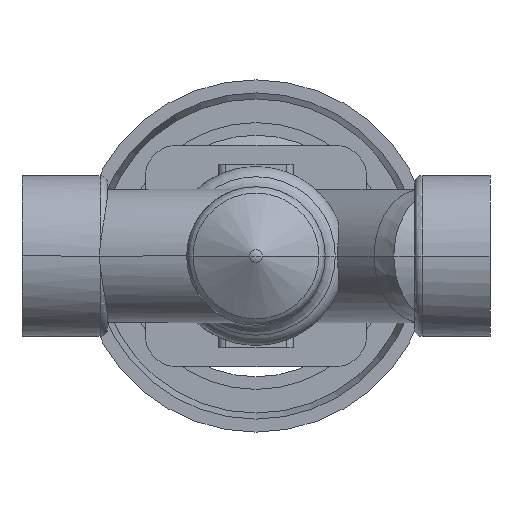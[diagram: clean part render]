
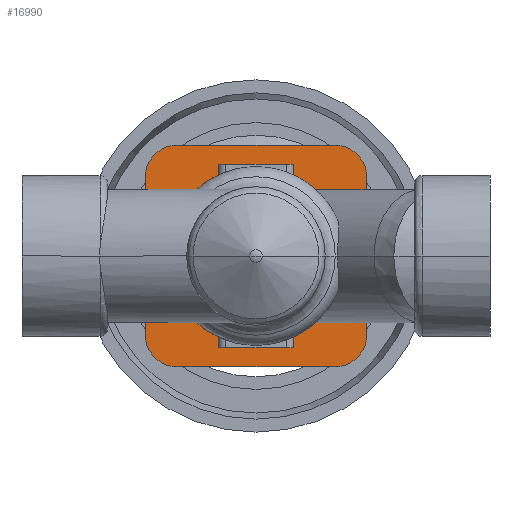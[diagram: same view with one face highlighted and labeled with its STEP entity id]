
A CAD part, front view. The second image highlights one B-rep face of the part: STEP entity #16990.
In plain terms, the highlighted planar face has unit normal (0, -1, 0).
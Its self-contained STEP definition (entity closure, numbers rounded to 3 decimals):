
#3250=CARTESIAN_POINT('',(78.,56.5,32.175));
#3260=VERTEX_POINT('',#3250);
#3880=CARTESIAN_POINT('',(108.,56.5,32.175));
#3890=VERTEX_POINT('',#3880);
#3920=CARTESIAN_POINT('',(93.,56.5,0.));
#3930=DIRECTION('',(0.,1.,0.));
#3940=DIRECTION('',(1.,0.,0.));
#3950=AXIS2_PLACEMENT_3D('',#3920,#3930,#3940);
#3960=CIRCLE('',#3950,35.5);
#3970=CARTESIAN_POINT('',(118.775,56.5,24.411));
#3980=VERTEX_POINT('',#3970);
#3990=EDGE_CURVE('',#3890,#3980,#3960,.T.);
#4940=CARTESIAN_POINT('',(57.5,56.5,0.));
#4950=VERTEX_POINT('',#4940);
#4980=CARTESIAN_POINT('',(93.,56.5,0.));
#4990=DIRECTION('',(0.,1.,0.));
#5000=DIRECTION('',(1.,0.,0.));
#5010=AXIS2_PLACEMENT_3D('',#4980,#4990,#5000);
#5020=CIRCLE('',#5010,35.5);
#5030=EDGE_CURVE('',#4950,#3260,#5020,.T.);
#8240=CARTESIAN_POINT('',(78.,56.5,-36.5));
#8250=VERTEX_POINT('',#8240);
#8280=CARTESIAN_POINT('',(78.,56.5,18.25));
#8290=DIRECTION('',(0.,0.,1.));
#8300=VECTOR('',#8290,1.);
#8310=LINE('',#8280,#8300);
#8320=CARTESIAN_POINT('',(78.,56.5,-32.175));
#8330=VERTEX_POINT('',#8320);
#8340=EDGE_CURVE('',#8250,#8330,#8310,.T.);
#8570=CARTESIAN_POINT('',(104.439,56.5,0.));
#8580=DIRECTION('',(0.,1.,0.));
#8590=DIRECTION('',(-1.,0.,0.));
#8600=AXIS2_PLACEMENT_3D('',#8570,#8580,#8590);
#8610=ELLIPSE('',#8600,36.839,26.5);
#8620=CARTESIAN_POINT('',(137.113,56.5,-12.24));
#8630=VERTEX_POINT('',#8620);
#8640=CARTESIAN_POINT('',(118.775,56.5,-24.411));
#8650=VERTEX_POINT('',#8640);
#8660=EDGE_CURVE('',#8630,#8650,#8610,.T.);
#14050=CARTESIAN_POINT('',(108.,56.5,-36.5));
#14060=VERTEX_POINT('',#14050);
#14090=CARTESIAN_POINT('',(116.375,56.5,-36.5));
#14100=DIRECTION('',(-1.,0.,0.));
#14110=VECTOR('',#14100,1.);
#14120=LINE('',#14090,#14110);
#14130=EDGE_CURVE('',#14060,#8250,#14120,.T.);
#15210=CARTESIAN_POINT('',(108.,56.5,18.25));
#15220=DIRECTION('',(0.,0.,-1.));
#15230=VECTOR('',#15220,1.);
#15240=LINE('',#15210,#15230);
#15250=CARTESIAN_POINT('',(108.,56.5,-32.175));
#15260=VERTEX_POINT('',#15250);
#15270=EDGE_CURVE('',#15260,#14060,#15240,.T.);
#15720=CARTESIAN_POINT('',(139.75,56.5,0.));
#15730=DIRECTION('',(0.,-1.,0.));
#15740=DIRECTION('',(-1.,0.,0.));
#15750=AXIS2_PLACEMENT_3D('',#15720,#15730,#15740);
#15760=PLANE('',#15750);
#15770=CARTESIAN_POINT('',(137.113,56.5,-15.556));
#15780=DIRECTION('',(0.,0.,1.));
#15790=VECTOR('',#15780,1.);
#15800=LINE('',#15770,#15790);
#15810=CARTESIAN_POINT('',(137.113,56.5,-31.113));
#15820=VERTEX_POINT('',#15810);
#15830=EDGE_CURVE('',#15820,#8630,#15800,.T.);
#15840=ORIENTED_EDGE('',*,*,#15830,.T.);
#15850=CARTESIAN_POINT('',(124.113,56.5,-31.113));
#15860=DIRECTION('',(0.,-1.,0.));
#15870=DIRECTION('',(1.,0.,0.));
#15880=AXIS2_PLACEMENT_3D('',#15850,#15860,#15870);
#15890=CIRCLE('',#15880,13.);
#15900=CARTESIAN_POINT('',(124.113,56.5,-44.113));
#15910=VERTEX_POINT('',#15900);
#15920=EDGE_CURVE('',#15910,#15820,#15890,.T.);
#15930=ORIENTED_EDGE('',*,*,#15920,.T.);
#15940=CARTESIAN_POINT('',(100.819,56.5,-44.113));
#15950=DIRECTION('',(1.,0.,0.));
#15960=VECTOR('',#15950,1.);
#15970=LINE('',#15940,#15960);
#15980=CARTESIAN_POINT('',(61.887,56.5,-44.113));
#15990=VERTEX_POINT('',#15980);
#16000=EDGE_CURVE('',#15990,#15910,#15970,.T.);
#16010=ORIENTED_EDGE('',*,*,#16000,.T.);
#16020=CARTESIAN_POINT('',(61.887,56.5,-31.113));
#16030=DIRECTION('',(0.,-1.,0.));
#16040=DIRECTION('',(0.,0.,-1.));
#16050=AXIS2_PLACEMENT_3D('',#16020,#16030,#16040);
#16060=CIRCLE('',#16050,13.);
#16070=CARTESIAN_POINT('',(48.887,56.5,-31.113));
#16080=VERTEX_POINT('',#16070);
#16090=EDGE_CURVE('',#16080,#15990,#16060,.T.);
#16100=ORIENTED_EDGE('',*,*,#16090,.T.);
#16110=CARTESIAN_POINT('',(48.887,56.5,15.556));
#16120=DIRECTION('',(0.,0.,-1.));
#16130=VECTOR('',#16120,1.);
#16140=LINE('',#16110,#16130);
#16150=CARTESIAN_POINT('',(48.887,56.5,31.113));
#16160=VERTEX_POINT('',#16150);
#16170=EDGE_CURVE('',#16160,#16080,#16140,.T.);
#16180=ORIENTED_EDGE('',*,*,#16170,.T.);
#16190=CARTESIAN_POINT('',(61.887,56.5,31.113));
#16200=DIRECTION('',(0.,-1.,0.));
#16210=DIRECTION('',(-1.,0.,0.));
#16220=AXIS2_PLACEMENT_3D('',#16190,#16200,#16210);
#16230=CIRCLE('',#16220,13.);
#16240=CARTESIAN_POINT('',(61.887,56.5,44.113));
#16250=VERTEX_POINT('',#16240);
#16260=EDGE_CURVE('',#16250,#16160,#16230,.T.);
#16270=ORIENTED_EDGE('',*,*,#16260,.T.);
#16280=CARTESIAN_POINT('',(131.931,56.5,44.113));
#16290=DIRECTION('',(-1.,0.,0.));
#16300=VECTOR('',#16290,1.);
#16310=LINE('',#16280,#16300);
#16320=CARTESIAN_POINT('',(124.113,56.5,44.113));
#16330=VERTEX_POINT('',#16320);
#16340=EDGE_CURVE('',#16330,#16250,#16310,.T.);
#16350=ORIENTED_EDGE('',*,*,#16340,.T.);
#16360=CARTESIAN_POINT('',(124.113,56.5,31.113));
#16370=DIRECTION('',(0.,-1.,0.));
#16380=DIRECTION('',(0.,0.,1.));
#16390=AXIS2_PLACEMENT_3D('',#16360,#16370,#16380);
#16400=CIRCLE('',#16390,13.);
#16410=CARTESIAN_POINT('',(137.113,56.5,31.113));
#16420=VERTEX_POINT('',#16410);
#16430=EDGE_CURVE('',#16420,#16330,#16400,.T.);
#16440=ORIENTED_EDGE('',*,*,#16430,.T.);
#16450=CARTESIAN_POINT('',(137.113,56.5,-15.556));
#16460=DIRECTION('',(0.,0.,1.));
#16470=VECTOR('',#16460,1.);
#16480=LINE('',#16450,#16470);
#16490=CARTESIAN_POINT('',(137.113,56.5,12.24));
#16500=VERTEX_POINT('',#16490);
#16510=EDGE_CURVE('',#16500,#16420,#16480,.T.);
#16520=ORIENTED_EDGE('',*,*,#16510,.T.);
#16530=CARTESIAN_POINT('',(104.439,56.5,0.));
#16540=DIRECTION('',(0.,1.,0.));
#16550=DIRECTION('',(-1.,0.,0.));
#16560=AXIS2_PLACEMENT_3D('',#16530,#16540,#16550);
#16570=ELLIPSE('',#16560,36.839,26.5);
#16580=EDGE_CURVE('',#3980,#16500,#16570,.T.);
#16590=ORIENTED_EDGE('',*,*,#16580,.T.);
#16600=ORIENTED_EDGE('',*,*,#3990,.T.);
#16610=CARTESIAN_POINT('',(108.,56.5,18.25));
#16620=DIRECTION('',(0.,0.,-1.));
#16630=VECTOR('',#16620,1.);
#16640=LINE('',#16610,#16630);
#16650=CARTESIAN_POINT('',(108.,56.5,36.5));
#16660=VERTEX_POINT('',#16650);
#16670=EDGE_CURVE('',#16660,#3890,#16640,.T.);
#16680=ORIENTED_EDGE('',*,*,#16670,.T.);
#16690=CARTESIAN_POINT('',(116.375,56.5,36.5));
#16700=DIRECTION('',(1.,0.,0.));
#16710=VECTOR('',#16700,1.);
#16720=LINE('',#16690,#16710);
#16730=CARTESIAN_POINT('',(78.,56.5,36.5));
#16740=VERTEX_POINT('',#16730);
#16750=EDGE_CURVE('',#16740,#16660,#16720,.T.);
#16760=ORIENTED_EDGE('',*,*,#16750,.T.);
#16770=CARTESIAN_POINT('',(78.,56.5,18.25));
#16780=DIRECTION('',(0.,0.,1.));
#16790=VECTOR('',#16780,1.);
#16800=LINE('',#16770,#16790);
#16810=EDGE_CURVE('',#3260,#16740,#16800,.T.);
#16820=ORIENTED_EDGE('',*,*,#16810,.T.);
#16830=ORIENTED_EDGE('',*,*,#5030,.T.);
#16840=EDGE_CURVE('',#8330,#4950,#5020,.T.);
#16850=ORIENTED_EDGE('',*,*,#16840,.T.);
#16860=ORIENTED_EDGE('',*,*,#8340,.T.);
#16870=ORIENTED_EDGE('',*,*,#14130,.T.);
#16880=ORIENTED_EDGE('',*,*,#15270,.T.);
#16890=CARTESIAN_POINT('',(93.,56.5,0.));
#16900=DIRECTION('',(0.,1.,0.));
#16910=DIRECTION('',(1.,0.,0.));
#16920=AXIS2_PLACEMENT_3D('',#16890,#16900,#16910);
#16930=CIRCLE('',#16920,35.5);
#16940=EDGE_CURVE('',#8650,#15260,#16930,.T.);
#16950=ORIENTED_EDGE('',*,*,#16940,.T.);
#16960=ORIENTED_EDGE('',*,*,#8660,.T.);
#16970=EDGE_LOOP('',(#16960,#16950,#16880,#16870,#16860,#16850,#16830,
#16820,#16760,#16680,#16600,#16590,#16520,#16440,#16350,#16270,#16180,
#16100,#16010,#15930,#15840));
#16980=FACE_OUTER_BOUND('',#16970,.T.);
#16990=ADVANCED_FACE('',(#16980),#15760,.T.);
